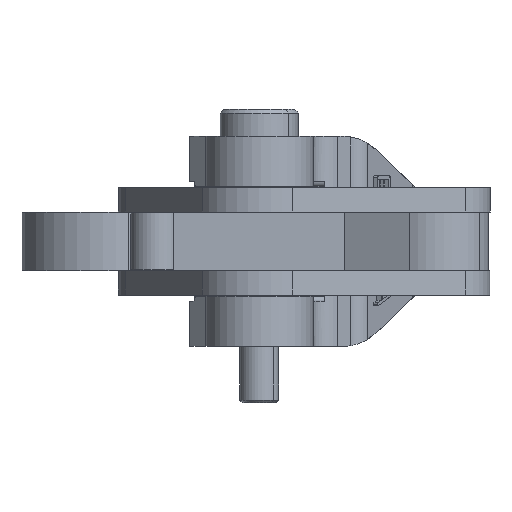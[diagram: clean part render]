
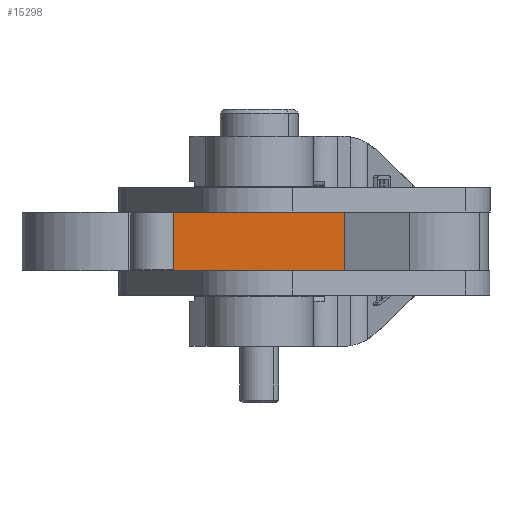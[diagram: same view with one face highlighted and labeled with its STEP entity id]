
A CAD part, front view. The second image highlights one B-rep face of the part: STEP entity #15298.
In plain terms, the highlighted planar face has unit normal (0, -1, 0).
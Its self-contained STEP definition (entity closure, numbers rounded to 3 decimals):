
#39 = ORIENTED_EDGE ( 'NONE', *, *, #7303, .F. ) ;
#727 = CARTESIAN_POINT ( 'NONE',  ( 17.5, -28., 6. ) ) ;
#787 = LINE ( 'NONE', #22161, #17457 ) ;
#2443 = VECTOR ( 'NONE', #8491, 1000. ) ;
#3189 = CARTESIAN_POINT ( 'NONE',  ( 17.5, -28., 6. ) ) ;
#3815 = DIRECTION ( 'NONE',  ( -1., 0., 0. ) ) ;
#4726 = AXIS2_PLACEMENT_3D ( 'NONE', #3189, #18719, #3815 ) ;
#4973 = VECTOR ( 'NONE', #16370, 1000. ) ;
#5035 = VERTEX_POINT ( 'NONE', #24590 ) ;
#5073 = FACE_OUTER_BOUND ( 'NONE', #10698, .T. ) ;
#5313 = VERTEX_POINT ( 'NONE', #22039 ) ;
#6828 = CARTESIAN_POINT ( 'NONE',  ( -17.5, -28., 6. ) ) ;
#7303 = EDGE_CURVE ( 'NONE', #5313, #10144, #787, .T. ) ;
#7851 = EDGE_CURVE ( 'NONE', #14425, #5313, #22229, .T. ) ;
#8316 = LINE ( 'NONE', #16073, #19421 ) ;
#8491 = DIRECTION ( 'NONE',  ( 1., 0., 0. ) ) ;
#10008 = CARTESIAN_POINT ( 'NONE',  ( 17.5, -28., -6. ) ) ;
#10144 = VERTEX_POINT ( 'NONE', #10008 ) ;
#10698 = EDGE_LOOP ( 'NONE', ( #22698, #39, #22281, #22954 ) ) ;
#11604 = EDGE_CURVE ( 'NONE', #14425, #5035, #22100, .T. ) ;
#14425 = VERTEX_POINT ( 'NONE', #19935 ) ;
#15298 = ADVANCED_FACE ( 'NONE', ( #5073 ), #20626, .F. ) ;
#16073 = CARTESIAN_POINT ( 'NONE',  ( 17.5, -28., -6. ) ) ;
#16370 = DIRECTION ( 'NONE',  ( 0., 0., -1. ) ) ;
#17457 = VECTOR ( 'NONE', #24079, 1000. ) ;
#18612 = EDGE_CURVE ( 'NONE', #5035, #10144, #8316, .T. ) ;
#18719 = DIRECTION ( 'NONE',  ( 0., 1., 0. ) ) ;
#19421 = VECTOR ( 'NONE', #23847, 1000. ) ;
#19935 = CARTESIAN_POINT ( 'NONE',  ( -17.5, -28., 6. ) ) ;
#20626 = PLANE ( 'NONE',  #4726 ) ;
#22039 = CARTESIAN_POINT ( 'NONE',  ( 17.5, -28., 6. ) ) ;
#22100 = LINE ( 'NONE', #6828, #4973 ) ;
#22161 = CARTESIAN_POINT ( 'NONE',  ( 17.5, -28., 6. ) ) ;
#22229 = LINE ( 'NONE', #727, #2443 ) ;
#22281 = ORIENTED_EDGE ( 'NONE', *, *, #7851, .F. ) ;
#22698 = ORIENTED_EDGE ( 'NONE', *, *, #18612, .T. ) ;
#22954 = ORIENTED_EDGE ( 'NONE', *, *, #11604, .T. ) ;
#23847 = DIRECTION ( 'NONE',  ( 1., 0., 0. ) ) ;
#24079 = DIRECTION ( 'NONE',  ( 0., 0., -1. ) ) ;
#24590 = CARTESIAN_POINT ( 'NONE',  ( -17.5, -28., -6. ) ) ;
